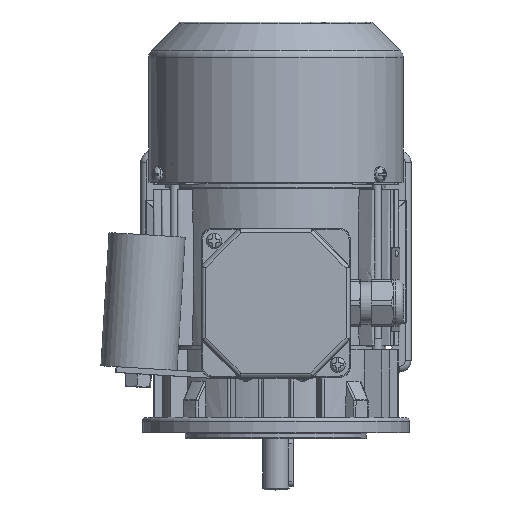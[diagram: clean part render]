
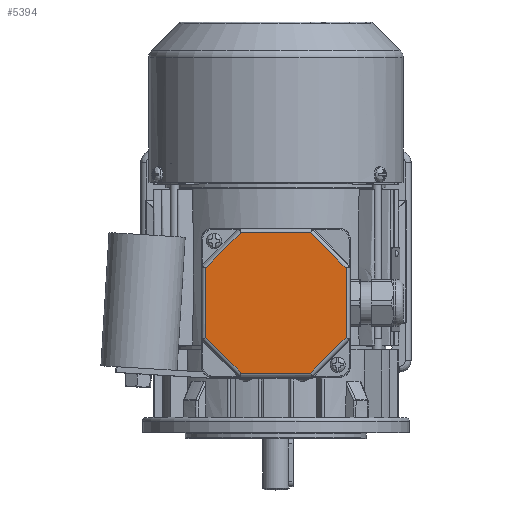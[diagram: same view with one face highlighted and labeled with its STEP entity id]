
A CAD part, top view. The second image highlights one B-rep face of the part: STEP entity #5394.
In plain terms, the highlighted planar face has unit normal (0, 0, 1).
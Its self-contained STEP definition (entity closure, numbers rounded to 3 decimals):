
#5394 = ADVANCED_FACE( '', ( #12026 ), #12027, .T. );
#12026 = FACE_OUTER_BOUND( '', #32460, .T. );
#12027 = PLANE( '', #32461 );
#32460 = EDGE_LOOP( '', ( #70348, #70349, #70350, #70351, #70352, #70353, #70354, #70355 ) );
#32461 = AXIS2_PLACEMENT_3D( '', #70356, #70357, #70358 );
#70348 = ORIENTED_EDGE( '', *, *, #87156, .T. );
#70349 = ORIENTED_EDGE( '', *, *, #89200, .T. );
#70350 = ORIENTED_EDGE( '', *, *, #89201, .T. );
#70351 = ORIENTED_EDGE( '', *, *, #87997, .T. );
#70352 = ORIENTED_EDGE( '', *, *, #85220, .T. );
#70353 = ORIENTED_EDGE( '', *, *, #89202, .T. );
#70354 = ORIENTED_EDGE( '', *, *, #89203, .T. );
#70355 = ORIENTED_EDGE( '', *, *, #89204, .T. );
#70356 = CARTESIAN_POINT( '', ( -39., 39., 12. ) );
#70357 = DIRECTION( '', ( 0., 0., 1. ) );
#70358 = DIRECTION( '', ( 1., 0., 0. ) );
#85220 = EDGE_CURVE( '', #95630, #95631, #95632, .F. );
#87156 = EDGE_CURVE( '', #98937, #98935, #98938, .F. );
#87997 = EDGE_CURVE( '', #100229, #95630, #100230, .T. );
#89200 = EDGE_CURVE( '', #98935, #101451, #102027, .T. );
#89201 = EDGE_CURVE( '', #101451, #100229, #102028, .F. );
#89202 = EDGE_CURVE( '', #95631, #101999, #102029, .T. );
#89203 = EDGE_CURVE( '', #101999, #98410, #102030, .F. );
#89204 = EDGE_CURVE( '', #98410, #98937, #102031, .T. );
#95630 = VERTEX_POINT( '', #113964 );
#95631 = VERTEX_POINT( '', #113965 );
#95632 = LINE( '', #113966, #113967 );
#98410 = VERTEX_POINT( '', #122270 );
#98935 = VERTEX_POINT( '', #124473 );
#98937 = VERTEX_POINT( '', #124475 );
#98938 = LINE( '', #124476, #124477 );
#100229 = VERTEX_POINT( '', #128777 );
#100230 = LINE( '', #128778, #128779 );
#101451 = VERTEX_POINT( '', #132798 );
#101999 = VERTEX_POINT( '', #134517 );
#102027 = LINE( '', #134686, #134687 );
#102028 = LINE( '', #134688, #134689 );
#102029 = LINE( '', #134690, #134691 );
#102030 = LINE( '', #134692, #134693 );
#102031 = LINE( '', #134694, #134695 );
#113964 = CARTESIAN_POINT( '', ( -36.825, 18.255, 12. ) );
#113965 = CARTESIAN_POINT( '', ( -36.825, -18.255, 12. ) );
#113966 = CARTESIAN_POINT( '', ( -36.825, -19.069, 12. ) );
#113967 = VECTOR( '', #153779, 1000. );
#122270 = CARTESIAN_POINT( '', ( 18.255, -36.825, 12. ) );
#124473 = CARTESIAN_POINT( '', ( 36.825, 18.255, 12. ) );
#124475 = CARTESIAN_POINT( '', ( 36.825, -18.255, 12. ) );
#124476 = CARTESIAN_POINT( '', ( 36.825, 19.069, 12. ) );
#124477 = VECTOR( '', #156299, 1000. );
#128777 = CARTESIAN_POINT( '', ( -18.255, 36.825, 12. ) );
#128778 = CARTESIAN_POINT( '', ( -37.401, 17.679, 12. ) );
#128779 = VECTOR( '', #157232, 1000. );
#132798 = CARTESIAN_POINT( '', ( 18.255, 36.825, 12. ) );
#134517 = CARTESIAN_POINT( '', ( -18.255, -36.825, 12. ) );
#134686 = CARTESIAN_POINT( '', ( 17.679, 37.401, 12. ) );
#134687 = VECTOR( '', #158463, 1000. );
#134688 = CARTESIAN_POINT( '', ( -19.069, 36.825, 12. ) );
#134689 = VECTOR( '', #158464, 1000. );
#134690 = CARTESIAN_POINT( '', ( -17.679, -37.401, 12. ) );
#134691 = VECTOR( '', #158465, 1000. );
#134692 = CARTESIAN_POINT( '', ( 19.069, -36.825, 12. ) );
#134693 = VECTOR( '', #158466, 1000. );
#134694 = CARTESIAN_POINT( '', ( 37.401, -17.679, 12. ) );
#134695 = VECTOR( '', #158467, 1000. );
#153779 = DIRECTION( '', ( 0., 1., 0. ) );
#156299 = DIRECTION( '', ( 0., -1., 0. ) );
#157232 = DIRECTION( '', ( -0.707, -0.707, 0. ) );
#158463 = DIRECTION( '', ( -0.707, 0.707, 0. ) );
#158464 = DIRECTION( '', ( 1., 0., 0. ) );
#158465 = DIRECTION( '', ( 0.707, -0.707, 0. ) );
#158466 = DIRECTION( '', ( -1., 0., 0. ) );
#158467 = DIRECTION( '', ( 0.707, 0.707, 0. ) );
